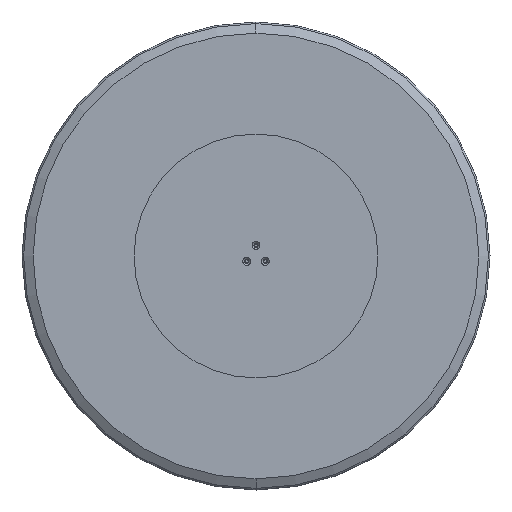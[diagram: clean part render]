
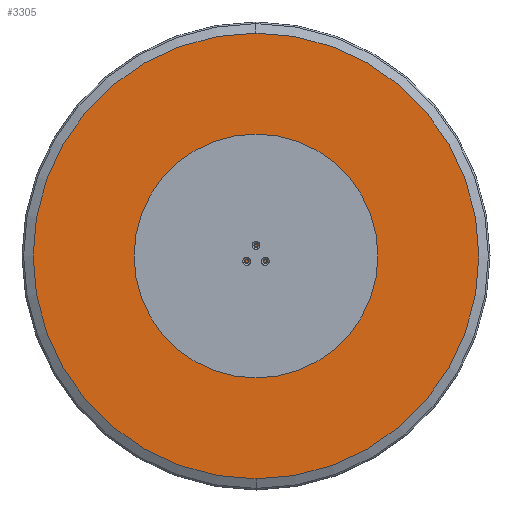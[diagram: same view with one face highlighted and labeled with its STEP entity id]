
A CAD part, front view. The second image highlights one B-rep face of the part: STEP entity #3305.
In plain terms, the highlighted planar face has unit normal (0, -1, 0).
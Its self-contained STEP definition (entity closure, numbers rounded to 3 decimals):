
#120 = DIRECTION ( 'NONE',  ( 0., 0., 1. ) ) ;
#147 = CARTESIAN_POINT ( 'NONE',  ( 0., 0., 0. ) ) ;
#158 = EDGE_LOOP ( 'NONE', ( #3826, #693 ) ) ;
#168 = CARTESIAN_POINT ( 'NONE',  ( 95., 0., -58.248 ) ) ;
#171 = CARTESIAN_POINT ( 'NONE',  ( 0., 0., 109.697 ) ) ;
#193 = DIRECTION ( 'NONE',  ( 0., 0., 1. ) ) ;
#253 = ORIENTED_EDGE ( 'NONE', *, *, #3391, .T. ) ;
#272 = DIRECTION ( 'NONE',  ( 0., 0., 1. ) ) ;
#357 = CARTESIAN_POINT ( 'NONE',  ( 0., 0., -484.323 ) ) ;
#378 = CARTESIAN_POINT ( 'NONE',  ( 0., 0., 484.323 ) ) ;
#383 = DIRECTION ( 'NONE',  ( 0., 1., 0. ) ) ;
#437 = CIRCLE ( 'NONE', #2658, 3.4 ) ;
#497 = CARTESIAN_POINT ( 'NONE',  ( 95., 0., -54.848 ) ) ;
#551 = VERTEX_POINT ( 'NONE', #357 ) ;
#570 = CIRCLE ( 'NONE', #1136, 3.4 ) ;
#652 = CARTESIAN_POINT ( 'NONE',  ( 0., 0., 106.297 ) ) ;
#693 = ORIENTED_EDGE ( 'NONE', *, *, #2890, .T. ) ;
#831 = AXIS2_PLACEMENT_3D ( 'NONE', #171, #1373, #193 ) ;
#838 = ORIENTED_EDGE ( 'NONE', *, *, #1281, .T. ) ;
#847 = DIRECTION ( 'NONE',  ( 0., 1., 0. ) ) ;
#865 = EDGE_CURVE ( 'NONE', #3793, #551, #3742, .T. ) ;
#894 = CARTESIAN_POINT ( 'NONE',  ( -95., 0., -51.448 ) ) ;
#974 = FACE_BOUND ( 'NONE', #2632, .T. ) ;
#1075 = DIRECTION ( 'NONE',  ( 0., 1., 0. ) ) ;
#1125 = CARTESIAN_POINT ( 'NONE',  ( -95., 0., -58.248 ) ) ;
#1136 = AXIS2_PLACEMENT_3D ( 'NONE', #497, #1075, #1390 ) ;
#1239 = VERTEX_POINT ( 'NONE', #2562 ) ;
#1281 = EDGE_CURVE ( 'NONE', #1239, #3891, #3751, .T. ) ;
#1351 = DIRECTION ( 'NONE',  ( 0., 0., -1. ) ) ;
#1366 = DIRECTION ( 'NONE',  ( 0., 0., 1. ) ) ;
#1373 = DIRECTION ( 'NONE',  ( 0., 1., 0. ) ) ;
#1383 = AXIS2_PLACEMENT_3D ( 'NONE', #3689, #2440, #120 ) ;
#1390 = DIRECTION ( 'NONE',  ( 0., 0., 1. ) ) ;
#1479 = EDGE_CURVE ( 'NONE', #3891, #1239, #1734, .T. ) ;
#1593 = AXIS2_PLACEMENT_3D ( 'NONE', #2191, #2505, #1351 ) ;
#1619 = CARTESIAN_POINT ( 'NONE',  ( 0., 0., 109.697 ) ) ;
#1635 = PLANE ( 'NONE',  #1593 ) ;
#1670 = DIRECTION ( 'NONE',  ( 0., 0., 1. ) ) ;
#1734 = CIRCLE ( 'NONE', #2436, 3.4 ) ;
#1802 = VERTEX_POINT ( 'NONE', #1125 ) ;
#1805 = VERTEX_POINT ( 'NONE', #168 ) ;
#1955 = ORIENTED_EDGE ( 'NONE', *, *, #2381, .T. ) ;
#2021 = VERTEX_POINT ( 'NONE', #894 ) ;
#2078 = CARTESIAN_POINT ( 'NONE',  ( 95., 0., -54.848 ) ) ;
#2082 = CIRCLE ( 'NONE', #1383, 3.4 ) ;
#2137 = EDGE_LOOP ( 'NONE', ( #3843, #3144 ) ) ;
#2149 = DIRECTION ( 'NONE',  ( 0., 1., 0. ) ) ;
#2170 = FACE_BOUND ( 'NONE', #3281, .T. ) ;
#2191 = CARTESIAN_POINT ( 'NONE',  ( 0., 0., 0. ) ) ;
#2220 = AXIS2_PLACEMENT_3D ( 'NONE', #3059, #2149, #272 ) ;
#2233 = EDGE_CURVE ( 'NONE', #2021, #1802, #2082, .T. ) ;
#2269 = CARTESIAN_POINT ( 'NONE',  ( 95., 0., -51.448 ) ) ;
#2288 = ORIENTED_EDGE ( 'NONE', *, *, #1479, .T. ) ;
#2381 = EDGE_CURVE ( 'NONE', #2776, #1805, #2719, .T. ) ;
#2428 = EDGE_CURVE ( 'NONE', #551, #3793, #2585, .T. ) ;
#2436 = AXIS2_PLACEMENT_3D ( 'NONE', #1619, #383, #2785 ) ;
#2440 = DIRECTION ( 'NONE',  ( 0., 1., 0. ) ) ;
#2505 = DIRECTION ( 'NONE',  ( 0., -1., 0. ) ) ;
#2562 = CARTESIAN_POINT ( 'NONE',  ( 0., 0., 113.097 ) ) ;
#2585 = CIRCLE ( 'NONE', #2914, 484.323 ) ;
#2632 = EDGE_LOOP ( 'NONE', ( #838, #2288 ) ) ;
#2635 = DIRECTION ( 'NONE',  ( 0., 1., 0. ) ) ;
#2658 = AXIS2_PLACEMENT_3D ( 'NONE', #3515, #2635, #3842 ) ;
#2719 = CIRCLE ( 'NONE', #3532, 3.4 ) ;
#2776 = VERTEX_POINT ( 'NONE', #2269 ) ;
#2785 = DIRECTION ( 'NONE',  ( 0., 0., 1. ) ) ;
#2808 = FACE_OUTER_BOUND ( 'NONE', #2137, .T. ) ;
#2890 = EDGE_CURVE ( 'NONE', #1802, #2021, #437, .T. ) ;
#2914 = AXIS2_PLACEMENT_3D ( 'NONE', #147, #3007, #1366 ) ;
#3007 = DIRECTION ( 'NONE',  ( 0., 1., 0. ) ) ;
#3059 = CARTESIAN_POINT ( 'NONE',  ( 0., 0., 0. ) ) ;
#3144 = ORIENTED_EDGE ( 'NONE', *, *, #2428, .F. ) ;
#3281 = EDGE_LOOP ( 'NONE', ( #1955, #253 ) ) ;
#3305 = ADVANCED_FACE ( 'NONE', ( #3378, #2170, #974, #2808 ), #1635, .T. ) ;
#3378 = FACE_BOUND ( 'NONE', #158, .T. ) ;
#3391 = EDGE_CURVE ( 'NONE', #1805, #2776, #570, .T. ) ;
#3515 = CARTESIAN_POINT ( 'NONE',  ( -95., 0., -54.848 ) ) ;
#3532 = AXIS2_PLACEMENT_3D ( 'NONE', #2078, #847, #1670 ) ;
#3689 = CARTESIAN_POINT ( 'NONE',  ( -95., 0., -54.848 ) ) ;
#3742 = CIRCLE ( 'NONE', #2220, 484.323 ) ;
#3751 = CIRCLE ( 'NONE', #831, 3.4 ) ;
#3793 = VERTEX_POINT ( 'NONE', #378 ) ;
#3826 = ORIENTED_EDGE ( 'NONE', *, *, #2233, .T. ) ;
#3842 = DIRECTION ( 'NONE',  ( 0., 0., 1. ) ) ;
#3843 = ORIENTED_EDGE ( 'NONE', *, *, #865, .F. ) ;
#3891 = VERTEX_POINT ( 'NONE', #652 ) ;
